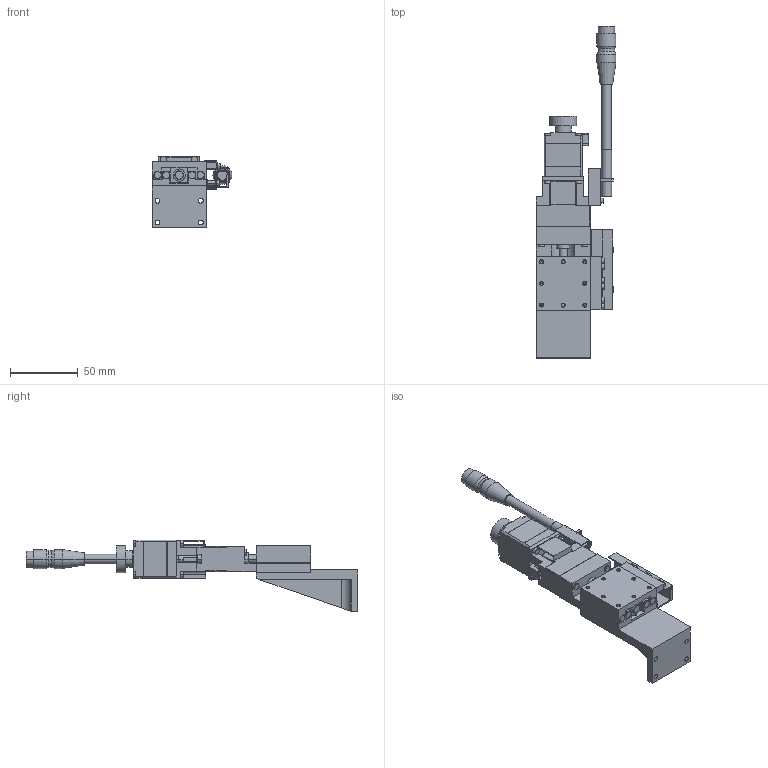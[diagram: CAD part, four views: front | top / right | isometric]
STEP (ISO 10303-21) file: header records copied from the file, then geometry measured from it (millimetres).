
FILE_DESCRIPTION(('STEP AP203'),'1');
FILE_NAME('C:/3D-Trans/3D_PZG413T-R□-E4+240125.step','2024-03-14T06:15:11',(' '),(' '),'Spatial InterOp 3D',' ',' ');
FILE_SCHEMA(('CONFIG_CONTROL_DESIGN'));
Length unit declared in the file: millimetre
Products named in the file (7): 1; 2; 3; 4; 5; 6; 7
Bounding box: 59 x 245 x 53 mm (x, y, z)
Volume: 122246.7 mm3; surface area: 58052.8 mm2
Topology: 7 solids, 7 shells, 760 faces, 1913 edges, 1222 vertices
Faces by surface type: plane 441, cylinder 264, cone 54, extrusion 1
Entity records: 23270 total; most frequent: CARTESIAN_POINT 4204, DIRECTION 4019, ORIENTED_EDGE 3786, EDGE_CURVE 1893, AXIS2_PLACEMENT_3D 1373, VECTOR 1273, LINE 1272, VERTEX_POINT 1222
